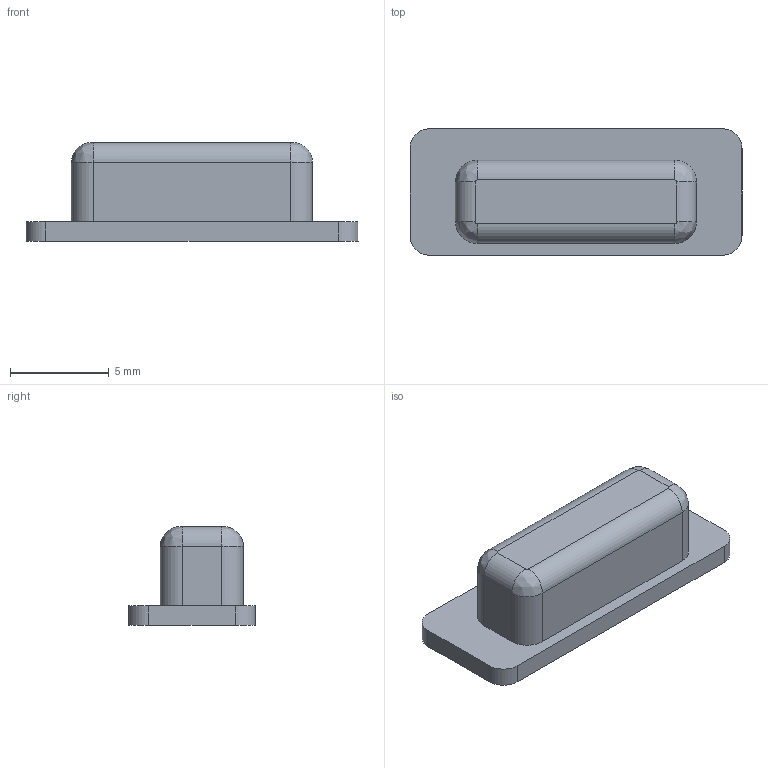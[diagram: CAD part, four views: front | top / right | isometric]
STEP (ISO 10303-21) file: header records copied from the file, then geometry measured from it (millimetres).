
FILE_DESCRIPTION((''),'2;1');
FILE_NAME('ANJIANMAO','2025-09-17T11:36:32',('seeed'),(''),'CREO PARAMETRIC BY PTC INC, 2021284','CREO PARAMETRIC BY PTC INC, 2021284','');
FILE_SCHEMA(('CONFIG_CONTROL_DESIGN'));
Length unit declared in the file: millimetre
Products named in the file (1): ANJIANMAO
Bounding box: 16.8 x 6.4 x 5.01 mm (x, y, z)
Volume: 301.1 mm3; surface area: 367.9 mm2
Topology: 1 solids, 1 shells, 27 faces, 64 edges, 40 vertices
Faces by surface type: cylinder 12, plane 11, bspline 4
Entity records: 864 total; most frequent: CARTESIAN_POINT 191, DIRECTION 138, ORIENTED_EDGE 128, EDGE_CURVE 64, AXIS2_PLACEMENT_3D 51, VERTEX_POINT 40, VECTOR 36, LINE 36
